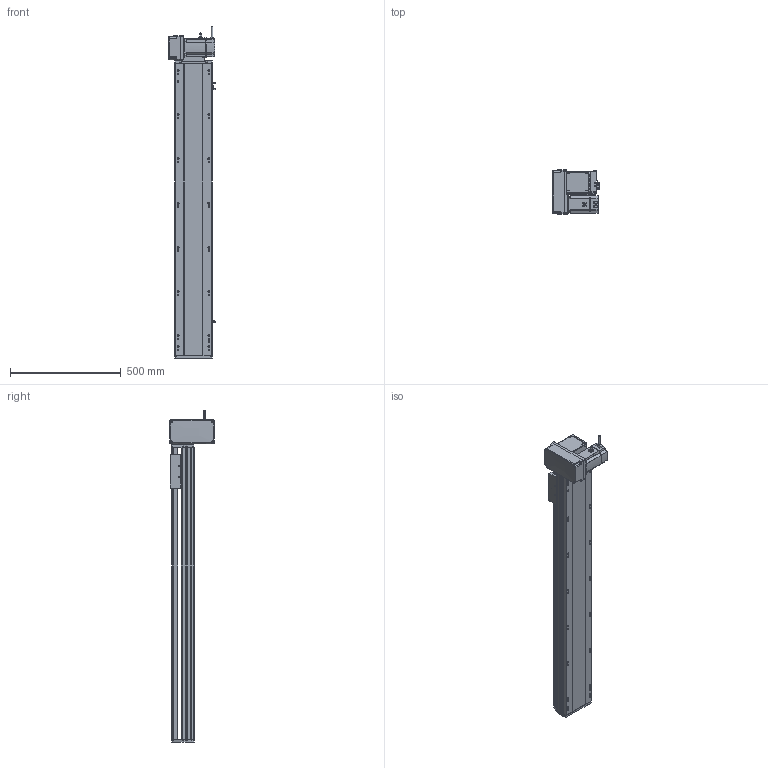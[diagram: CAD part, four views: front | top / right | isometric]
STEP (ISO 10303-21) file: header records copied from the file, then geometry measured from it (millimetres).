
FILE_DESCRIPTION (( 'STEP AP214' ), '1' );
FILE_NAME ('RTB17S-XX-1050-LM-M75-C4.STEP', '2025-12-12T00:38:43', ( '' ), ( '' ), 'SwSTEP 2.0', 'SolidWorks 2018', '' );
FILE_SCHEMA (( 'AUTOMOTIVE_DESIGN' ));
Length unit declared in the file: millimetre
Products named in the file (15): RTB17-R-011菁釱^RTB17S-XX-XX-LM-M75-C4; RTB22S-GY-017P^RTB17S-LM-々湍釱蚾饜-750W_RTB17S-XX-XX-LM-M75-C4; EE672^RTB17S-XX-XX-LM-M75-C4; RTB17S-XX-1050-LM-M75-C4; RTB17S-L-014-T20-P75--々湍釱^RTB17S-LM-々湍釱蚾饜-750W_RTB17S-XX-XX-LM-M75-C4; RTB22S-GY-008-M75--萇儂啣^RTB17S-LM-々湍釱蚾饜-750W_RTB17S-XX-XX-LM-M75-C4; RTB17S-LM-々湍釱蚾饜-750W^RTB17S-XX-XX-LM-M75-C4; RTB17S-L-004-賑釱^RTB17S-賑釱_RTB17S-XX-XX-LM-M75-C4; 750W萇儂^RTB17S-XX-XX-LM-M75-C4; RTH13-BL-012覜茼え俋离^RTB17S-賑釱_RTB17S-XX-XX-LM-M75-C4; RTB17S-L-007奻裔^RTB17S-XX-XX-LM-M75-C4; RTB22S-GY-018P^RTB17S-LM-々湍釱蚾饜-750W_RTB17S-XX-XX-LM-M75-C4; RTB17S-賑釱^RTB17S-XX-XX-LM-M75-C4; RTB17S-L-001-耜醱啣^RTB17S-XX-XX-LM-M75-C4; RTB22S-GY-005P^RTB17S-LM-々湍釱蚾饜-750W_RTB17S-XX-XX-LM-M75-C4
Assembly tree (17 placements, depth 3):
  RTB17S-XX-1050-LM-M75-C4
    RTB17-R-011菁釱^RTB17S-XX-XX-LM-M75-C4
    EE672^RTB17S-XX-XX-LM-M75-C4  x3
    RTB17S-L-001-耜醱啣^RTB17S-XX-XX-LM-M75-C4
    RTB17S-賑釱^RTB17S-XX-XX-LM-M75-C4
      RTB17S-L-004-賑釱^RTB17S-賑釱_RTB17S-XX-XX-LM-M75-C4
      RTH13-BL-012覜茼え俋离^RTB17S-賑釱_RTB17S-XX-XX-LM-M75-C4
    RTB17S-L-007奻裔^RTB17S-XX-XX-LM-M75-C4
    750W萇儂^RTB17S-XX-XX-LM-M75-C4
    RTB17S-LM-々湍釱蚾饜-750W^RTB17S-XX-XX-LM-M75-C4
      RTB17S-L-014-T20-P75--々湍釱^RTB17S-LM-々湍釱蚾饜-750W_RTB17S-XX-XX-LM-M75-C4
      RTB22S-GY-005P^RTB17S-LM-々湍釱蚾饜-750W_RTB17S-XX-XX-LM-M75-C4
      RTB22S-GY-017P^RTB17S-LM-々湍釱蚾饜-750W_RTB17S-XX-XX-LM-M75-C4  x2
      RTB22S-GY-008-M75--萇儂啣^RTB17S-LM-々湍釱蚾饜-750W_RTB17S-XX-XX-LM-M75-C4
      RTB22S-GY-018P^RTB17S-LM-々湍釱蚾饜-750W_RTB17S-XX-XX-LM-M75-C4
Bounding box: 210.4 x 200 x 1502.2 mm (x, y, z)
Volume: 12508454.8 mm3; surface area: 2134134.2 mm2
Topology: 17 solids, 17 shells, 2105 faces, 5836 edges, 3770 vertices
Faces by surface type: plane 972, cylinder 717, bspline 294, cone 110, sphere 8, torus 4
Entity records: 58870 total; most frequent: CARTESIAN_POINT 17300, ORIENTED_EDGE 8516, DIRECTION 7952, EDGE_CURVE 4258, AXIS2_PLACEMENT_3D 2790, VERTEX_POINT 2774, VECTOR 2372, LINE 2372
